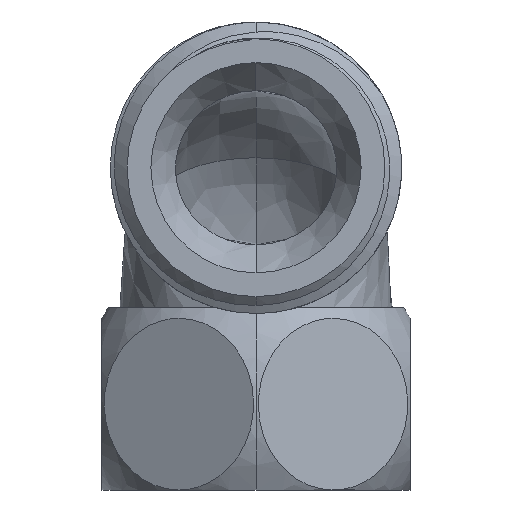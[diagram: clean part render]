
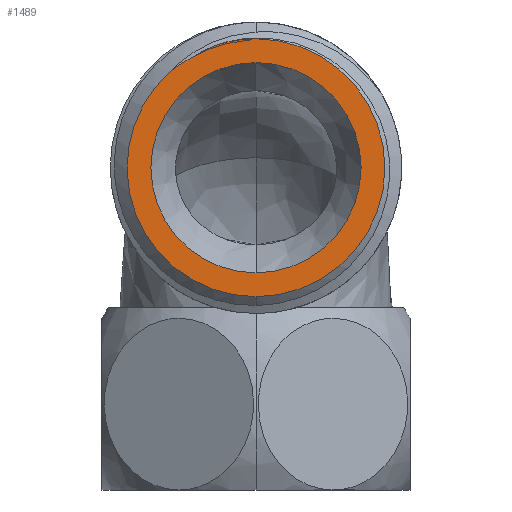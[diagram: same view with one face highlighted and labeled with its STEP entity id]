
A CAD part, left-side view. The second image highlights one B-rep face of the part: STEP entity #1489.
In plain terms, the highlighted planar face has unit normal (-1, 0, 0).
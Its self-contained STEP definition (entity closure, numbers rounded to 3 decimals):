
#1304 = ORIENTED_EDGE ( 'NONE', *, *, #1421, .F. ) ;
#1343 = ORIENTED_EDGE ( 'NONE', *, *, #1409, .T. ) ;
#1354 = EDGE_CURVE ( 'NONE', #1375, #1357, #3540, .T. ) ;
#1357 = VERTEX_POINT ( 'NONE', #3524 ) ;
#1358 = VERTEX_POINT ( 'NONE', #3523 ) ;
#1363 = VERTEX_POINT ( 'NONE', #3572 ) ;
#1375 = VERTEX_POINT ( 'NONE', #3611 ) ;
#1379 = EDGE_CURVE ( 'NONE', #1501, #1384, #3610, .T. ) ;
#1382 = ORIENTED_EDGE ( 'NONE', *, *, #1522, .F. ) ;
#1384 = VERTEX_POINT ( 'NONE', #3626 ) ;
#1409 = EDGE_CURVE ( 'NONE', #1363, #1375, #3813, .T. ) ;
#1421 = EDGE_CURVE ( 'NONE', #1363, #1523, #3840, .T. ) ;
#1473 = EDGE_CURVE ( 'NONE', #1357, #1358, #4239, .T. ) ;
#1478 = ORIENTED_EDGE ( 'NONE', *, *, #1379, .T. ) ;
#1482 = EDGE_LOOP ( 'NONE', ( #1478, #1505 ) ) ;
#1489 = ADVANCED_FACE ( 'NONE', ( #4452, #4451 ), #4447, .T. ) ;
#1501 = VERTEX_POINT ( 'NONE', #4542 ) ;
#1505 = ORIENTED_EDGE ( 'NONE', *, *, #1525, .T. ) ;
#1506 = ORIENTED_EDGE ( 'NONE', *, *, #1473, .T. ) ;
#1519 = EDGE_LOOP ( 'NONE', ( #1382, #1304, #1343, #1521, #1506 ) ) ;
#1521 = ORIENTED_EDGE ( 'NONE', *, *, #1354, .T. ) ;
#1522 = EDGE_CURVE ( 'NONE', #1523, #1358, #4569, .T. ) ;
#1523 = VERTEX_POINT ( 'NONE', #4568 ) ;
#1525 = EDGE_CURVE ( 'NONE', #1384, #1501, #4570, .T. ) ;
#3523 = CARTESIAN_POINT ( 'NONE',  ( -21., 2.974, 31.706 ) ) ;
#3524 = CARTESIAN_POINT ( 'NONE',  ( -21., 0., 32.2 ) ) ;
#3525 = DIRECTION ( 'NONE',  ( 0., 0., 1. ) ) ;
#3526 = DIRECTION ( 'NONE',  ( -1., 0., 0. ) ) ;
#3538 = CARTESIAN_POINT ( 'NONE',  ( -21., 0., 23. ) ) ;
#3539 = AXIS2_PLACEMENT_3D ( 'NONE', #3538, #3526, #3525 ) ;
#3540 = CIRCLE ( 'NONE', #3539, 9.2 ) ;
#3572 = CARTESIAN_POINT ( 'NONE',  ( -21., 6.107, 29.88 ) ) ;
#3606 = DIRECTION ( 'NONE',  ( 0., 0., -1. ) ) ;
#3607 = DIRECTION ( 'NONE',  ( 1., 0., 0. ) ) ;
#3608 = CARTESIAN_POINT ( 'NONE',  ( -21., 0., 23. ) ) ;
#3609 = AXIS2_PLACEMENT_3D ( 'NONE', #3608, #3607, #3606 ) ;
#3610 = CIRCLE ( 'NONE', #3609, 7.5 ) ;
#3611 = CARTESIAN_POINT ( 'NONE',  ( -21., 0., 13.8 ) ) ;
#3626 = CARTESIAN_POINT ( 'NONE',  ( -21., 0., 15.5 ) ) ;
#3677 = DIRECTION ( 'NONE',  ( 0., 0., 1. ) ) ;
#3809 = DIRECTION ( 'NONE',  ( 0., 0., 1. ) ) ;
#3810 = DIRECTION ( 'NONE',  ( -1., 0., 0. ) ) ;
#3811 = CARTESIAN_POINT ( 'NONE',  ( -21., 0., 23. ) ) ;
#3812 = AXIS2_PLACEMENT_3D ( 'NONE', #3811, #3810, #3809 ) ;
#3813 = CIRCLE ( 'NONE', #3812, 9.2 ) ;
#3840 = B_SPLINE_CURVE_WITH_KNOTS ( 'NONE', 3,
 ( #3895, #3894, #3893, #3892, #3891, #3890 ),
 .UNSPECIFIED., .F., .F.,
 ( 4, 2, 4 ),
 ( 0.006, 0.007, 0.008 ),
 .UNSPECIFIED. ) ;
#3890 = CARTESIAN_POINT ( 'NONE',  ( -21., 4.622, 30.84 ) ) ;
#3891 = CARTESIAN_POINT ( 'NONE',  ( -21., 4.885, 30.704 ) ) ;
#3892 = CARTESIAN_POINT ( 'NONE',  ( -21., 5.14, 30.556 ) ) ;
#3893 = CARTESIAN_POINT ( 'NONE',  ( -21., 5.636, 30.236 ) ) ;
#3894 = CARTESIAN_POINT ( 'NONE',  ( -21., 5.877, 30.063 ) ) ;
#3895 = CARTESIAN_POINT ( 'NONE',  ( -21., 6.107, 29.88 ) ) ;
#4236 = DIRECTION ( 'NONE',  ( -1., 0., 0. ) ) ;
#4237 = CARTESIAN_POINT ( 'NONE',  ( -21., 0., 23. ) ) ;
#4238 = AXIS2_PLACEMENT_3D ( 'NONE', #4237, #4236, #3677 ) ;
#4239 = CIRCLE ( 'NONE', #4238, 9.2 ) ;
#4446 = CARTESIAN_POINT ( 'NONE',  ( -21., 0., 23. ) ) ;
#4447 = PLANE ( 'NONE',  #4521 ) ;
#4451 = FACE_BOUND ( 'NONE', #1482, .T. ) ;
#4452 = FACE_OUTER_BOUND ( 'NONE', #1519, .T. ) ;
#4519 = DIRECTION ( 'NONE',  ( 0., 0., 1. ) ) ;
#4520 = DIRECTION ( 'NONE',  ( -1., 0., 0. ) ) ;
#4521 = AXIS2_PLACEMENT_3D ( 'NONE', #4446, #4520, #4519 ) ;
#4542 = CARTESIAN_POINT ( 'NONE',  ( -21., 0., 30.5 ) ) ;
#4560 = DIRECTION ( 'NONE',  ( 0., 0., -1. ) ) ;
#4561 = DIRECTION ( 'NONE',  ( 1., 0., 0. ) ) ;
#4562 = CARTESIAN_POINT ( 'NONE',  ( -21., 0., 23. ) ) ;
#4563 = AXIS2_PLACEMENT_3D ( 'NONE', #4562, #4561, #4560 ) ;
#4564 = CARTESIAN_POINT ( 'NONE',  ( -21., 2.974, 31.706 ) ) ;
#4565 = CARTESIAN_POINT ( 'NONE',  ( -21., 3.549, 31.476 ) ) ;
#4566 = CARTESIAN_POINT ( 'NONE',  ( -21., 4.099, 31.188 ) ) ;
#4567 = CARTESIAN_POINT ( 'NONE',  ( -21., 4.622, 30.84 ) ) ;
#4568 = CARTESIAN_POINT ( 'NONE',  ( -21., 4.622, 30.84 ) ) ;
#4569 = B_SPLINE_CURVE_WITH_KNOTS ( 'NONE', 3,
 ( #4567, #4566, #4565, #4564 ),
 .UNSPECIFIED., .F., .F.,
 ( 4, 4 ),
 ( 0., 0.002 ),
 .UNSPECIFIED. ) ;
#4570 = CIRCLE ( 'NONE', #4563, 7.5 ) ;
